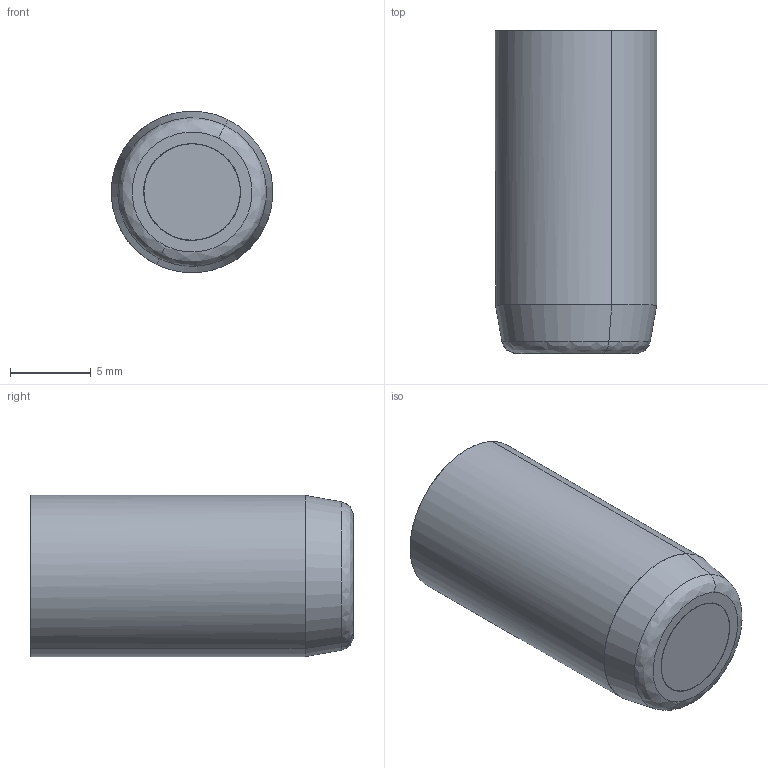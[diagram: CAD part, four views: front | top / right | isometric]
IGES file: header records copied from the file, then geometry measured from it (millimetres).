
Start section: START RECORD GO HERE.
Global section: file name: fa105700.igs; native system: DASSAULT SYSTEMES CATIA V5 R20 - www.3ds.com; preprocessor: CATIA Version 5 Release 20 ; author: Utente; organization: NB04-ASUS; date: 20201108.083720; units: millimetre
Bounding box: 9.99 x 20 x 10 mm (x, y, z)
Surface area: 1729.8 mm2 (no closed solid volume)
Topology: 0 solids, 0 shells, 191 faces, 835 edges, 832 vertices
Faces by surface type: bspline 76, revolution 72, plane 43
